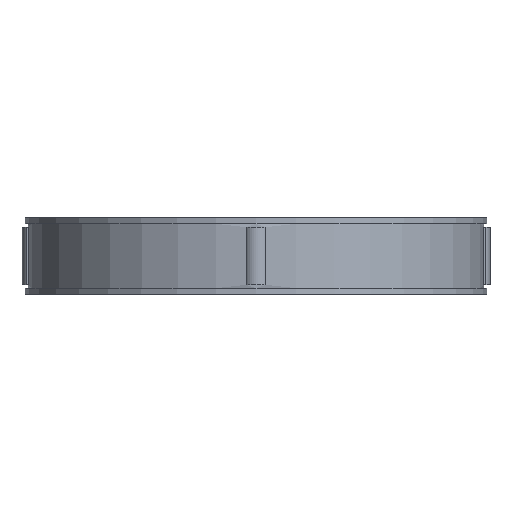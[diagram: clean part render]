
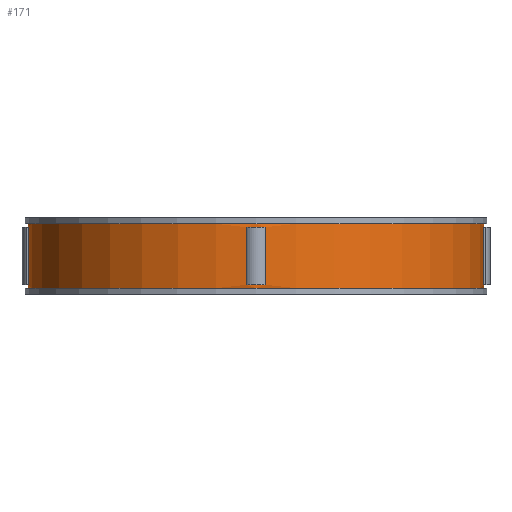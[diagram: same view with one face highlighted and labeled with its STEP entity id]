
A CAD part, front view. The second image highlights one B-rep face of the part: STEP entity #171.
In plain terms, the highlighted cylindrical face has radius 35.5 mm (diameter 71 mm), a full revolution.
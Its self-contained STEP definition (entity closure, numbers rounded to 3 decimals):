
#171=ADVANCED_FACE('',(#359,#360,#361,#362,#363,#364),#219,.T.);
#219=CYLINDRICAL_SURFACE('',#882,35.5);
#231=LINE('',#1207,#295);
#232=LINE('',#1212,#296);
#233=LINE('',#1215,#297);
#234=LINE('',#1220,#298);
#235=LINE('',#1223,#299);
#236=LINE('',#1228,#300);
#237=LINE('',#1234,#301);
#238=LINE('',#1238,#302);
#295=VECTOR('',#966,1.);
#296=VECTOR('',#969,1.);
#297=VECTOR('',#972,1.);
#298=VECTOR('',#975,1.);
#299=VECTOR('',#978,1.);
#300=VECTOR('',#981,1.);
#301=VECTOR('',#986,1.);
#302=VECTOR('',#989,1.);
#359=FACE_BOUND('',#383,.T.);
#360=FACE_BOUND('',#384,.T.);
#361=FACE_BOUND('',#385,.T.);
#362=FACE_BOUND('',#386,.T.);
#363=FACE_BOUND('',#387,.T.);
#364=FACE_BOUND('',#388,.T.);
#383=EDGE_LOOP('',(#447));
#384=EDGE_LOOP('',(#448));
#385=EDGE_LOOP('',(#449,#450,#451,#452));
#386=EDGE_LOOP('',(#453,#454,#455,#456));
#387=EDGE_LOOP('',(#457,#458,#459,#460));
#388=EDGE_LOOP('',(#461,#462,#463,#464));
#447=ORIENTED_EDGE('',*,*,#727,.F.);
#448=ORIENTED_EDGE('',*,*,#728,.T.);
#449=ORIENTED_EDGE('',*,*,#729,.F.);
#450=ORIENTED_EDGE('',*,*,#730,.T.);
#451=ORIENTED_EDGE('',*,*,#731,.F.);
#452=ORIENTED_EDGE('',*,*,#732,.F.);
#453=ORIENTED_EDGE('',*,*,#733,.F.);
#454=ORIENTED_EDGE('',*,*,#734,.T.);
#455=ORIENTED_EDGE('',*,*,#735,.F.);
#456=ORIENTED_EDGE('',*,*,#736,.F.);
#457=ORIENTED_EDGE('',*,*,#737,.F.);
#458=ORIENTED_EDGE('',*,*,#738,.T.);
#459=ORIENTED_EDGE('',*,*,#739,.F.);
#460=ORIENTED_EDGE('',*,*,#740,.F.);
#461=ORIENTED_EDGE('',*,*,#741,.F.);
#462=ORIENTED_EDGE('',*,*,#742,.T.);
#463=ORIENTED_EDGE('',*,*,#743,.T.);
#464=ORIENTED_EDGE('',*,*,#744,.T.);
#655=VERTEX_POINT('',#1204);
#656=VERTEX_POINT('',#1206);
#657=VERTEX_POINT('',#1208);
#658=VERTEX_POINT('',#1209);
#659=VERTEX_POINT('',#1211);
#660=VERTEX_POINT('',#1213);
#661=VERTEX_POINT('',#1216);
#662=VERTEX_POINT('',#1217);
#663=VERTEX_POINT('',#1219);
#664=VERTEX_POINT('',#1221);
#665=VERTEX_POINT('',#1224);
#666=VERTEX_POINT('',#1225);
#667=VERTEX_POINT('',#1227);
#668=VERTEX_POINT('',#1229);
#669=VERTEX_POINT('',#1232);
#670=VERTEX_POINT('',#1233);
#671=VERTEX_POINT('',#1235);
#672=VERTEX_POINT('',#1237);
#727=EDGE_CURVE('',#655,#655,#831,.T.);
#728=EDGE_CURVE('',#656,#656,#832,.T.);
#729=EDGE_CURVE('',#657,#658,#231,.T.);
#730=EDGE_CURVE('',#657,#659,#833,.T.);
#731=EDGE_CURVE('',#660,#659,#232,.T.);
#732=EDGE_CURVE('',#658,#660,#834,.T.);
#733=EDGE_CURVE('',#661,#662,#233,.T.);
#734=EDGE_CURVE('',#661,#663,#835,.T.);
#735=EDGE_CURVE('',#664,#663,#234,.T.);
#736=EDGE_CURVE('',#662,#664,#836,.T.);
#737=EDGE_CURVE('',#665,#666,#235,.T.);
#738=EDGE_CURVE('',#665,#667,#837,.T.);
#739=EDGE_CURVE('',#668,#667,#236,.T.);
#740=EDGE_CURVE('',#666,#668,#838,.T.);
#741=EDGE_CURVE('',#669,#670,#839,.T.);
#742=EDGE_CURVE('',#669,#671,#237,.T.);
#743=EDGE_CURVE('',#671,#672,#840,.T.);
#744=EDGE_CURVE('',#672,#670,#238,.T.);
#831=CIRCLE('',#872,35.5);
#832=CIRCLE('',#873,35.5);
#833=CIRCLE('',#874,35.5);
#834=CIRCLE('',#875,35.5);
#835=CIRCLE('',#876,35.5);
#836=CIRCLE('',#877,35.5);
#837=CIRCLE('',#878,35.5);
#838=CIRCLE('',#879,35.5);
#839=CIRCLE('',#880,35.5);
#840=CIRCLE('',#881,35.5);
#872=AXIS2_PLACEMENT_3D('',#1203,#962,#963);
#873=AXIS2_PLACEMENT_3D('',#1205,#964,#965);
#874=AXIS2_PLACEMENT_3D('',#1210,#967,#968);
#875=AXIS2_PLACEMENT_3D('',#1214,#970,#971);
#876=AXIS2_PLACEMENT_3D('',#1218,#973,#974);
#877=AXIS2_PLACEMENT_3D('',#1222,#976,#977);
#878=AXIS2_PLACEMENT_3D('',#1226,#979,#980);
#879=AXIS2_PLACEMENT_3D('',#1230,#982,#983);
#880=AXIS2_PLACEMENT_3D('',#1231,#984,#985);
#881=AXIS2_PLACEMENT_3D('',#1236,#987,#988);
#882=AXIS2_PLACEMENT_3D('',#1239,#990,#991);
#962=DIRECTION('',(0.,0.,1.));
#963=DIRECTION('',(1.,0.,0.));
#964=DIRECTION('',(0.,0.,1.));
#965=DIRECTION('',(1.,0.,0.));
#966=DIRECTION('',(0.,0.,-1.));
#967=DIRECTION('',(0.,0.,1.));
#968=DIRECTION('',(1.,0.,0.));
#969=DIRECTION('',(0.,0.,1.));
#970=DIRECTION('',(0.,0.,1.));
#971=DIRECTION('',(1.,0.,0.));
#972=DIRECTION('',(0.,0.,-1.));
#973=DIRECTION('',(0.,0.,1.));
#974=DIRECTION('',(1.,0.,0.));
#975=DIRECTION('',(0.,0.,1.));
#976=DIRECTION('',(0.,0.,1.));
#977=DIRECTION('',(1.,0.,0.));
#978=DIRECTION('',(0.,0.,-1.));
#979=DIRECTION('',(0.,0.,1.));
#980=DIRECTION('',(1.,0.,0.));
#981=DIRECTION('',(0.,0.,1.));
#982=DIRECTION('',(0.,0.,1.));
#983=DIRECTION('',(1.,0.,0.));
#984=DIRECTION('',(0.,0.,-1.));
#985=DIRECTION('',(-1.,0.,0.));
#986=DIRECTION('',(0.,0.,-1.));
#987=DIRECTION('',(0.,0.,-1.));
#988=DIRECTION('',(-1.,0.,0.));
#989=DIRECTION('',(0.,0.,1.));
#990=DIRECTION('',(0.,0.,-1.));
#991=DIRECTION('',(-1.,0.,0.));
#1203=CARTESIAN_POINT('',(0.,0.,11.));
#1204=CARTESIAN_POINT('',(35.5,0.,11.));
#1205=CARTESIAN_POINT('',(0.,0.,1.));
#1206=CARTESIAN_POINT('',(35.5,0.,1.));
#1207=CARTESIAN_POINT('',(35.47,-1.471,12.));
#1208=CARTESIAN_POINT('',(35.47,-1.471,10.5));
#1209=CARTESIAN_POINT('',(35.47,-1.471,1.5));
#1210=CARTESIAN_POINT('',(0.,0.,10.5));
#1211=CARTESIAN_POINT('',(35.47,1.471,10.5));
#1212=CARTESIAN_POINT('',(35.47,1.471,12.));
#1213=CARTESIAN_POINT('',(35.47,1.471,1.5));
#1214=CARTESIAN_POINT('',(0.,0.,1.5));
#1215=CARTESIAN_POINT('',(1.471,35.47,12.));
#1216=CARTESIAN_POINT('',(1.471,35.47,10.5));
#1217=CARTESIAN_POINT('',(1.471,35.47,1.5));
#1218=CARTESIAN_POINT('',(0.,0.,10.5));
#1219=CARTESIAN_POINT('',(-1.471,35.47,10.5));
#1220=CARTESIAN_POINT('',(-1.471,35.47,12.));
#1221=CARTESIAN_POINT('',(-1.471,35.47,1.5));
#1222=CARTESIAN_POINT('',(0.,0.,1.5));
#1223=CARTESIAN_POINT('',(-35.47,1.471,12.));
#1224=CARTESIAN_POINT('',(-35.47,1.471,10.5));
#1225=CARTESIAN_POINT('',(-35.47,1.471,1.5));
#1226=CARTESIAN_POINT('',(0.,0.,10.5));
#1227=CARTESIAN_POINT('',(-35.47,-1.471,10.5));
#1228=CARTESIAN_POINT('',(-35.47,-1.471,12.));
#1229=CARTESIAN_POINT('',(-35.47,-1.471,1.5));
#1230=CARTESIAN_POINT('',(0.,0.,1.5));
#1231=CARTESIAN_POINT('',(0.,0.,10.5));
#1232=CARTESIAN_POINT('',(1.471,-35.47,10.5));
#1233=CARTESIAN_POINT('',(-1.471,-35.47,10.5));
#1234=CARTESIAN_POINT('',(1.471,-35.47,12.));
#1235=CARTESIAN_POINT('',(1.471,-35.47,1.5));
#1236=CARTESIAN_POINT('',(0.,0.,1.5));
#1237=CARTESIAN_POINT('',(-1.471,-35.47,1.5));
#1238=CARTESIAN_POINT('',(-1.471,-35.47,12.));
#1239=CARTESIAN_POINT('',(0.,0.,12.));
